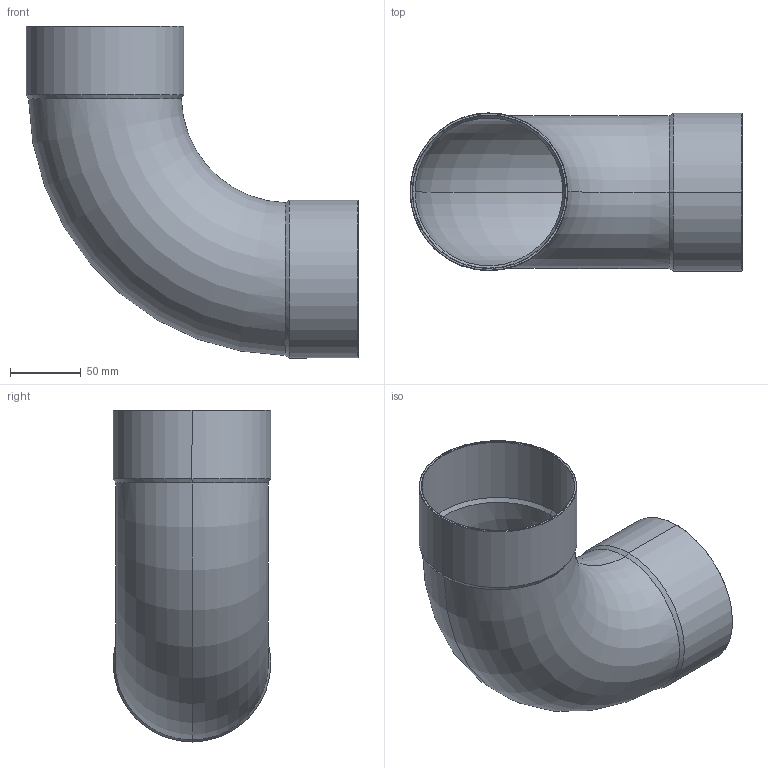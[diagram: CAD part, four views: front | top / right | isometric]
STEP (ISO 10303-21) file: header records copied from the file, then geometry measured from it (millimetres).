
FILE_DESCRIPTION((''),'2;1');
FILE_NAME('D:\5002\15002a108.stp','2005-10-04T13:02:19',('Kris'),(''),'Autodesk Inventor 8','Autodesk Inventor 8','');
FILE_SCHEMA(('AUTOMOTIVE_DESIGN { 1 0 10303 214 1 1 1 1 }'));
Length unit declared in the file: millimetre
Products named in the file (1): 15002a108
Bounding box: 234.8 x 111.6 x 234.8 mm (x, y, z)
Volume: 184140.5 mm3; surface area: 205667.6 mm2
Topology: 1 solids, 1 shells, 30 faces, 60 edges, 32 vertices
Faces by surface type: cone 12, bspline 9, torus 4, cylinder 4, plane 1
Entity records: 1027 total; most frequent: CARTESIAN_POINT 414, DIRECTION 124, ORIENTED_EDGE 120, EDGE_CURVE 60, AXIS2_PLACEMENT_3D 50, VERTEX_POINT 32, EDGE_LOOP 32, FACE_OUTER_BOUND 30
